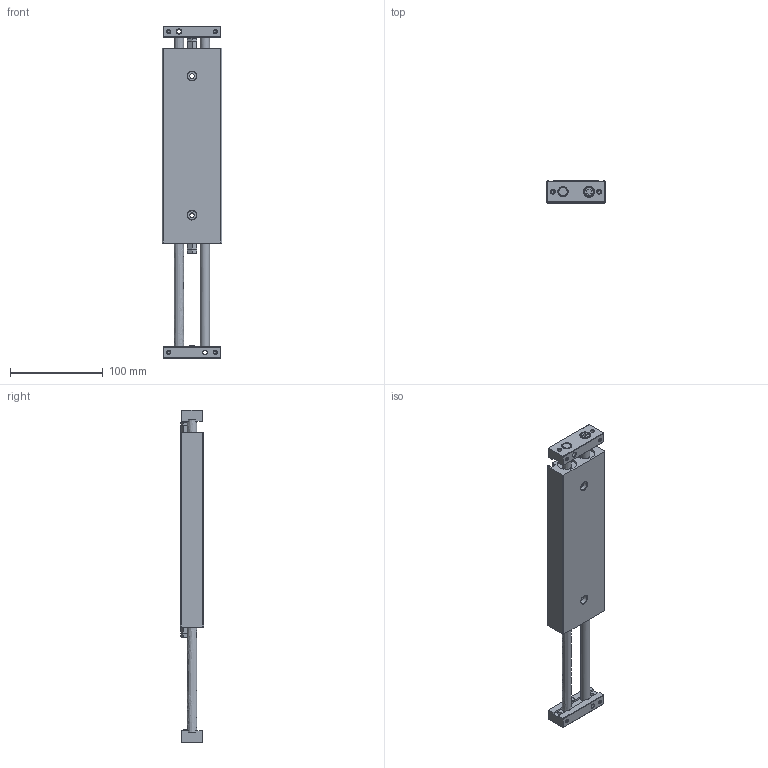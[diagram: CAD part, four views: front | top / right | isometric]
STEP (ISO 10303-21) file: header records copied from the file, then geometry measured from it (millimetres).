
FILE_DESCRIPTION((''),'2;1');
FILE_NAME('I:\3D電子目錄\氣缸\STX\STX\STX20\STX20x100.stp','2007-10-02T08:33:16',('Administrator'),(''),'Autodesk Inventor 11','Autodesk Inventor 11','');
FILE_SCHEMA(('AUTOMOTIVE_DESIGN { 1 0 10303 214 1 1 1 1 }'));
Length unit declared in the file: millimetre
Products named in the file (1): STX20
Bounding box: 64 x 25 x 358 mm (x, y, z)
Volume: 367147.1 mm3; surface area: 69649.9 mm2
Topology: 1 solids, 1 shells, 277 faces, 685 edges, 425 vertices
Faces by surface type: plane 133, cone 75, bspline 42, cylinder 23, torus 4
Full cylindrical faces by diameter (mm): 3.242 x4, 6 x2, 9.5 x2, 10 x6, 10.2 x2, 11 x1, 11.2 x1, 21 x2, 22.2 x2
Entity records: 7915 total; most frequent: CARTESIAN_POINT 2261, DIRECTION 1108, ORIENTED_EDGE 1106, EDGE_CURVE 553, AXIS2_PLACEMENT_3D 424, EDGE_LOOP 408, VERTEX_POINT 381, FACE_OUTER_BOUND 276
